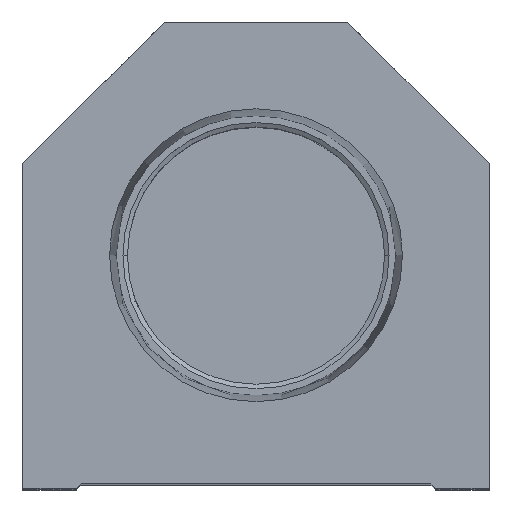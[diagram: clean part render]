
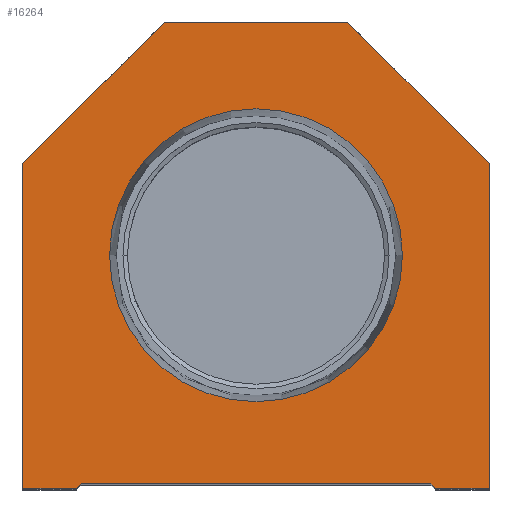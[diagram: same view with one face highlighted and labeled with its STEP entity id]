
A CAD part, top view. The second image highlights one B-rep face of the part: STEP entity #16264.
In plain terms, the highlighted planar face has unit normal (0, 0, 1).
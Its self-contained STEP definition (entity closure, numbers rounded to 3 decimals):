
#112 = VERTEX_POINT ( 'NONE', #18027 ) ;
#170 = LINE ( 'NONE', #15265, #18855 ) ;
#321 = CARTESIAN_POINT ( 'NONE',  ( -19.05, 0.5, 0. ) ) ;
#428 = VERTEX_POINT ( 'NONE', #10268 ) ;
#517 = DIRECTION ( 'NONE',  ( 0., 1., 0. ) ) ;
#792 = DIRECTION ( 'NONE',  ( 1., 0., 0. ) ) ;
#1128 = CARTESIAN_POINT ( 'NONE',  ( 19.05, 0.5, 0. ) ) ;
#1161 = DIRECTION ( 'NONE',  ( 0., 0., 1. ) ) ;
#1827 = EDGE_CURVE ( 'NONE', #16554, #10560, #10014, .T. ) ;
#2543 = CIRCLE ( 'NONE', #10665, 15.947 ) ;
#2557 = CARTESIAN_POINT ( 'NONE',  ( 25.4, 35.4, 0. ) ) ;
#2567 = DIRECTION ( 'NONE',  ( 1., 0., 0. ) ) ;
#2783 = VECTOR ( 'NONE', #517, 1000. ) ;
#2875 = VERTEX_POINT ( 'NONE', #13385 ) ;
#3215 = CARTESIAN_POINT ( 'NONE',  ( 25.4, 0., 0. ) ) ;
#3390 = EDGE_CURVE ( 'NONE', #9558, #112, #4888, .T. ) ;
#3563 = ORIENTED_EDGE ( 'NONE', *, *, #12845, .T. ) ;
#3876 = VERTEX_POINT ( 'NONE', #13157 ) ;
#4276 = VERTEX_POINT ( 'NONE', #8130 ) ;
#4358 = EDGE_CURVE ( 'NONE', #4276, #3876, #2543, .T. ) ;
#4481 = EDGE_CURVE ( 'NONE', #16357, #8177, #11399, .T. ) ;
#4531 = ORIENTED_EDGE ( 'NONE', *, *, #6257, .T. ) ;
#4761 = DIRECTION ( 'NONE',  ( 0.707, -0.707, 0. ) ) ;
#4888 = LINE ( 'NONE', #3215, #2783 ) ;
#5049 = VECTOR ( 'NONE', #2567, 1000. ) ;
#5083 = LINE ( 'NONE', #13880, #12900 ) ;
#5289 = EDGE_CURVE ( 'NONE', #10251, #5347, #15865, .T. ) ;
#5347 = VERTEX_POINT ( 'NONE', #17318 ) ;
#5439 = LINE ( 'NONE', #14329, #6933 ) ;
#6082 = VECTOR ( 'NONE', #18695, 1000. ) ;
#6195 = ORIENTED_EDGE ( 'NONE', *, *, #19123, .T. ) ;
#6257 = EDGE_CURVE ( 'NONE', #10560, #10251, #5083, .T. ) ;
#6425 = CARTESIAN_POINT ( 'NONE',  ( 9.775, 9.775, 0. ) ) ;
#6693 = DIRECTION ( 'NONE',  ( 0., 0., 1. ) ) ;
#6713 = EDGE_CURVE ( 'NONE', #2875, #16357, #10817, .T. ) ;
#6726 = EDGE_CURVE ( 'NONE', #8177, #428, #13576, .T. ) ;
#6771 = DIRECTION ( 'NONE',  ( 0., -1., 0. ) ) ;
#6933 = VECTOR ( 'NONE', #792, 1000. ) ;
#7070 = CARTESIAN_POINT ( 'NONE',  ( -25.4, 0., 0. ) ) ;
#7153 = FACE_OUTER_BOUND ( 'NONE', #15010, .T. ) ;
#7594 = ORIENTED_EDGE ( 'NONE', *, *, #4358, .F. ) ;
#8004 = EDGE_LOOP ( 'NONE', ( #18372, #7594 ) ) ;
#8130 = CARTESIAN_POINT ( 'NONE',  ( -15.947, 25.4, 0. ) ) ;
#8159 = ORIENTED_EDGE ( 'NONE', *, *, #3390, .T. ) ;
#8162 = CARTESIAN_POINT ( 'NONE',  ( 25.4, 0., 0. ) ) ;
#8177 = VERTEX_POINT ( 'NONE', #1128 ) ;
#8224 = CIRCLE ( 'NONE', #13557, 15.947 ) ;
#8357 = CARTESIAN_POINT ( 'NONE',  ( 10., 50.8, 0. ) ) ;
#8674 = AXIS2_PLACEMENT_3D ( 'NONE', #13308, #8992, #17899 ) ;
#8992 = DIRECTION ( 'NONE',  ( 0., 0., 1. ) ) ;
#9428 = CARTESIAN_POINT ( 'NONE',  ( -9.775, 9.775, 0. ) ) ;
#9558 = VERTEX_POINT ( 'NONE', #8162 ) ;
#9601 = ORIENTED_EDGE ( 'NONE', *, *, #5289, .T. ) ;
#10014 = LINE ( 'NONE', #8357, #17125 ) ;
#10251 = VERTEX_POINT ( 'NONE', #16070 ) ;
#10268 = CARTESIAN_POINT ( 'NONE',  ( 19.55, 0., 0. ) ) ;
#10413 = ORIENTED_EDGE ( 'NONE', *, *, #6713, .T. ) ;
#10560 = VERTEX_POINT ( 'NONE', #14131 ) ;
#10568 = DIRECTION ( 'NONE',  ( 1., 0., 0. ) ) ;
#10665 = AXIS2_PLACEMENT_3D ( 'NONE', #15678, #6693, #12861 ) ;
#10817 = LINE ( 'NONE', #9428, #13533 ) ;
#11048 = DIRECTION ( 'NONE',  ( -0.707, -0.707, 0. ) ) ;
#11279 = LINE ( 'NONE', #2557, #6082 ) ;
#11399 = LINE ( 'NONE', #17340, #5049 ) ;
#11660 = VECTOR ( 'NONE', #6771, 1000. ) ;
#11937 = FACE_BOUND ( 'NONE', #8004, .T. ) ;
#12619 = EDGE_CURVE ( 'NONE', #3876, #4276, #8224, .T. ) ;
#12845 = EDGE_CURVE ( 'NONE', #5347, #2875, #170, .T. ) ;
#12861 = DIRECTION ( 'NONE',  ( 1., 0., 0. ) ) ;
#12900 = VECTOR ( 'NONE', #11048, 1000. ) ;
#13119 = PLANE ( 'NONE',  #8674 ) ;
#13157 = CARTESIAN_POINT ( 'NONE',  ( 15.947, 25.4, 0. ) ) ;
#13308 = CARTESIAN_POINT ( 'NONE',  ( 0., 0., 0. ) ) ;
#13385 = CARTESIAN_POINT ( 'NONE',  ( -19.55, 0., 0. ) ) ;
#13434 = EDGE_CURVE ( 'NONE', #112, #16554, #11279, .T. ) ;
#13533 = VECTOR ( 'NONE', #18151, 1000. ) ;
#13557 = AXIS2_PLACEMENT_3D ( 'NONE', #14905, #1161, #19187 ) ;
#13576 = LINE ( 'NONE', #6425, #18514 ) ;
#13880 = CARTESIAN_POINT ( 'NONE',  ( -25.4, 35.4, 0. ) ) ;
#14131 = CARTESIAN_POINT ( 'NONE',  ( -10., 50.8, 0. ) ) ;
#14329 = CARTESIAN_POINT ( 'NONE',  ( 19.05, 0., 0. ) ) ;
#14905 = CARTESIAN_POINT ( 'NONE',  ( 0., 25.4, 0. ) ) ;
#15010 = EDGE_LOOP ( 'NONE', ( #3563, #10413, #17813, #17015, #6195, #8159, #16186, #18347, #4531, #9601 ) ) ;
#15265 = CARTESIAN_POINT ( 'NONE',  ( -19.05, 0., 0. ) ) ;
#15678 = CARTESIAN_POINT ( 'NONE',  ( 0., 25.4, 0. ) ) ;
#15865 = LINE ( 'NONE', #7070, #11660 ) ;
#16070 = CARTESIAN_POINT ( 'NONE',  ( -25.4, 35.4, 0. ) ) ;
#16186 = ORIENTED_EDGE ( 'NONE', *, *, #13434, .T. ) ;
#16264 = ADVANCED_FACE ( 'NONE', ( #11937, #7153 ), #13119, .T. ) ;
#16357 = VERTEX_POINT ( 'NONE', #321 ) ;
#16554 = VERTEX_POINT ( 'NONE', #19320 ) ;
#17015 = ORIENTED_EDGE ( 'NONE', *, *, #6726, .T. ) ;
#17125 = VECTOR ( 'NONE', #19005, 1000. ) ;
#17318 = CARTESIAN_POINT ( 'NONE',  ( -25.4, 0., 0. ) ) ;
#17340 = CARTESIAN_POINT ( 'NONE',  ( -19.05, 0.5, 0. ) ) ;
#17813 = ORIENTED_EDGE ( 'NONE', *, *, #4481, .T. ) ;
#17899 = DIRECTION ( 'NONE',  ( 1., 0., 0. ) ) ;
#18027 = CARTESIAN_POINT ( 'NONE',  ( 25.4, 35.4, 0. ) ) ;
#18151 = DIRECTION ( 'NONE',  ( 0.707, 0.707, 0. ) ) ;
#18347 = ORIENTED_EDGE ( 'NONE', *, *, #1827, .T. ) ;
#18372 = ORIENTED_EDGE ( 'NONE', *, *, #12619, .F. ) ;
#18514 = VECTOR ( 'NONE', #4761, 1000. ) ;
#18695 = DIRECTION ( 'NONE',  ( -0.707, 0.707, 0. ) ) ;
#18855 = VECTOR ( 'NONE', #10568, 1000. ) ;
#19005 = DIRECTION ( 'NONE',  ( -1., 0., 0. ) ) ;
#19123 = EDGE_CURVE ( 'NONE', #428, #9558, #5439, .T. ) ;
#19187 = DIRECTION ( 'NONE',  ( 1., 0., 0. ) ) ;
#19320 = CARTESIAN_POINT ( 'NONE',  ( 10., 50.8, 0. ) ) ;
